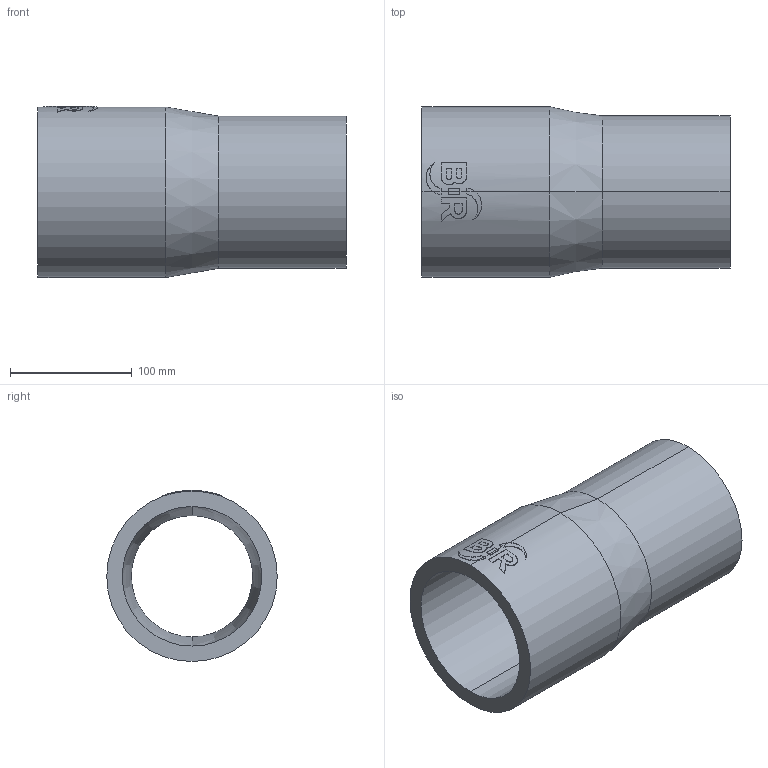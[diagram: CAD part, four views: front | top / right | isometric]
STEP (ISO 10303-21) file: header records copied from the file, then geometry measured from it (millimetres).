
FILE_DESCRIPTION (( 'STEP AP214' ), '1' );
FILE_NAME ('2323161515.STEP', '2018-07-20T11:33:16', ( '' ), ( '' ), 'SwSTEP 2.0', 'SolidWorks 2017', '' );
FILE_SCHEMA (( 'AUTOMOTIVE_DESIGN' ));
Length unit declared in the file: millimetre
Products named in the file (1): 2323161515
Bounding box: 253 x 140 x 140.46 mm (x, y, z)
Volume: 1212424.1 mm3; surface area: 200626.4 mm2
Topology: 1 solids, 1 shells, 63 faces, 160 edges, 104 vertices
Faces by surface type: cylinder 31, plane 28, cone 4
Entity records: 3229 total; most frequent: CARTESIAN_POINT 1020, ORIENTED_EDGE 320, DIRECTION 296, EDGE_CURVE 160, AXIS2_PLACEMENT_3D 112, VERTEX_POINT 104, VECTOR 72, LINE 72
